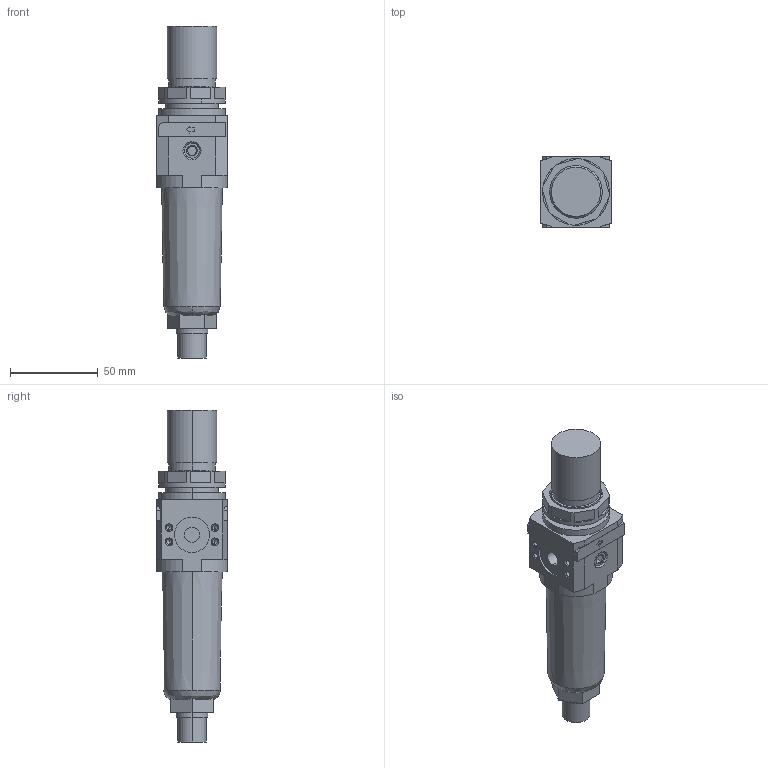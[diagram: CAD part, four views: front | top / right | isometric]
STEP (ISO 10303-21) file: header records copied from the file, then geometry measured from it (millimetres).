
FILE_DESCRIPTION((''),'2;1');
FILE_NAME('I:\DOC-EDP\Lib-3d\FRL\17104A_.stp','2003-06-16T14:48:22',('maffial1'),(''),'Autodesk Inventor 7','Autodesk Inventor 7','');
FILE_SCHEMA(('AUTOMOTIVE_DESIGN { 1 0 10303 214 1 1 1 1 }'));
Length unit declared in the file: millimetre
Products named in the file (4): 17104A_; 17104A_(1); RS_1701_12; RK_1701_020
Assembly tree (3 placements, depth 2):
  17104A_
    17104A_(1)
    RS_1701_12
    RK_1701_020
Bounding box: 40 x 40 x 189 mm (x, y, z)
Volume: 165549.2 mm3; surface area: 31633 mm2
Topology: 3 solids, 5 shells, 234 faces, 565 edges, 351 vertices
Faces by surface type: plane 84, bspline 60, cylinder 52, cone 34, torus 4
Entity records: 7264 total; most frequent: CARTESIAN_POINT 1899, ORIENTED_EDGE 1090, DIRECTION 1078, EDGE_CURVE 545, AXIS2_PLACEMENT_3D 376, VERTEX_POINT 351, VECTOR 326, LINE 326
